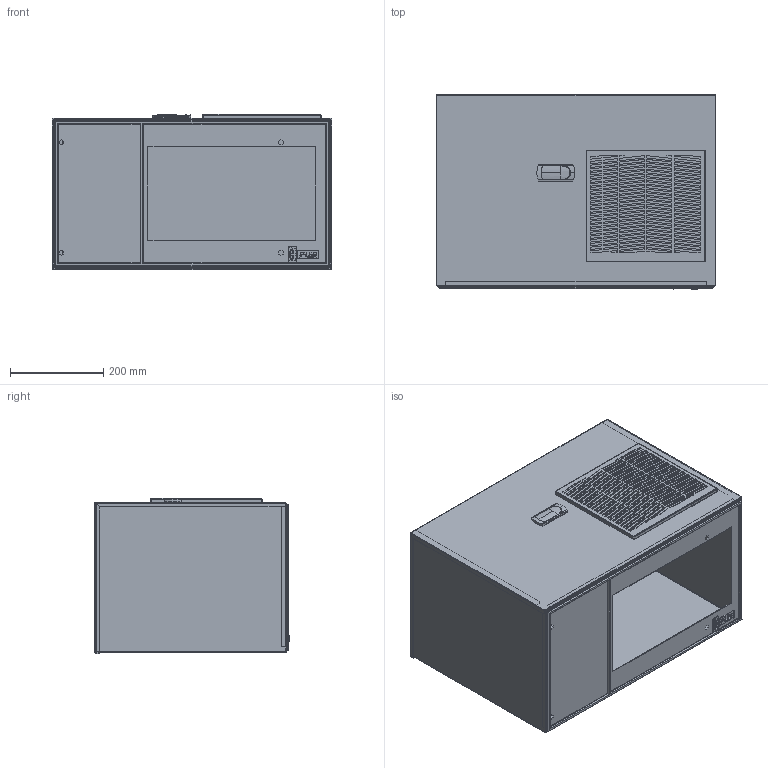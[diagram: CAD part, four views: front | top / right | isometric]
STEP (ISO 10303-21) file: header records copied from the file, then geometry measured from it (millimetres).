
FILE_DESCRIPTION(/* description */ (''),/* implementation_level */ '2;1');
FILE_NAME(/* name */ 'CCU09A402RNIUX_rh',/* time_stamp */ '2024-06-07T15:03:59+02:00',/* author */ (''),/* organization */ (''),/* preprocessor_version */ 'ST-DEVELOPER v16.5',/* originating_system */ 'Rhino 7.37',/* authorisation */ '');
FILE_SCHEMA (('AUTOMOTIVE_DESIGN'));
Length unit declared in the file: millimetre
Products named in the file (1): Document
Bounding box: 600 x 417.2 x 333 mm (x, y, z)
Volume: 788265.6 mm3; surface area: 2406884.6 mm2
Topology: 3 solids, 4 shells, 1004 faces, 2726 edges, 1743 vertices
Faces by surface type: plane 847, cylinder 118, bspline 39
Entity records: 33775 total; most frequent: CARTESIAN_POINT 14747, ORIENTED_EDGE 5435, EDGE_CURVE 2725, B_SPLINE_CURVE_WITH_KNOTS 2640, VERTEX_POINT 1743, EDGE_LOOP 1259, ADVANCED_FACE 1004, FACE_OUTER_BOUND 1004
